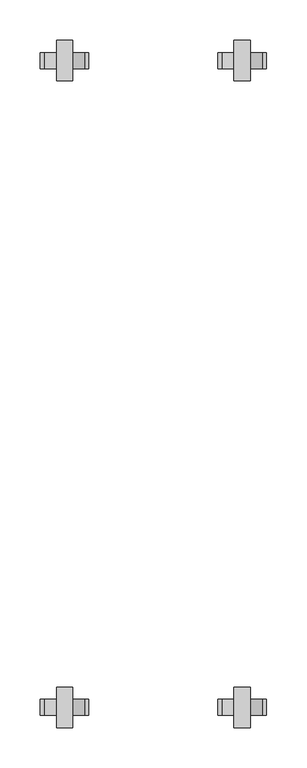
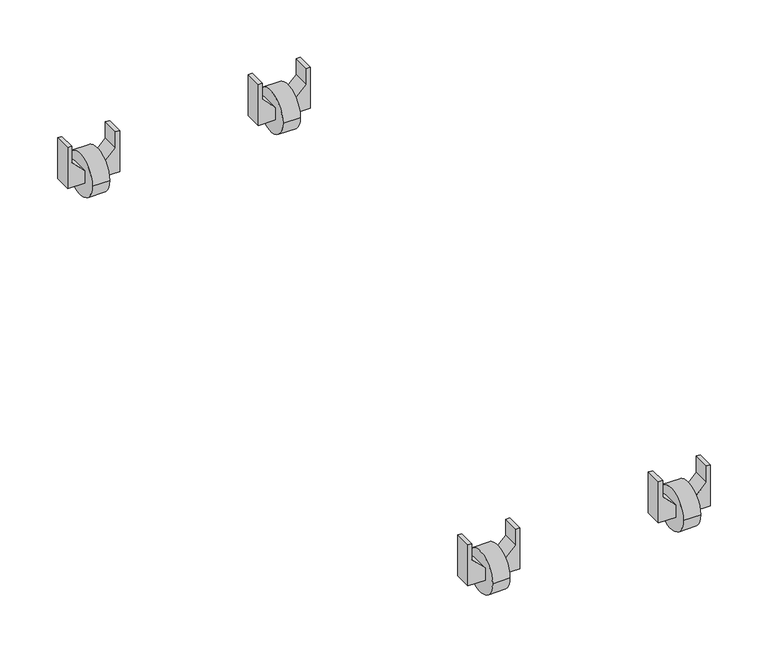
"""IFC4 building model written with IfcOpenShell, lengths in millimetres: proxy geometry, Ролики серия Solo : FONRMMD."""

from ifc_helpers import new_model, si_unit, point, frame, frame_2d, origin, place, context, project, spatial, polyline, circle_curve, trimmed, segment, composite_curve, outline, extrude, source, transform, mapped, element, save


def electrical_equipment_6c59c8ee(model_context):
    return source(origin(), model_context, "Body", "SweptSolid", [
        extrude(outline(polyline([(50.3347717, 135.3347717), (35.0, 120.0), (20.0, 120.0), (20.0, 140.0), (70.0, 140.0), (70.0, 135.3347717), (50.3347717, 135.3347717)])), frame((0.0, -410.0, 0.0), z_axis=(0.0, 1.0, 0.0), x_axis=(0.0, 0.0, 1.0)), (0.0, 0.0, 1.0), 20.0),
        extrude(outline(polyline([(50.3347717, 84.6652283), (70.0, 84.6652283), (70.0, 80.0), (20.0, 80.0), (20.0, 100.0), (35.0, 100.0), (50.3347717, 84.6652283)])), frame((0.0, -410.0, 0.0), z_axis=(0.0, 1.0, 0.0), x_axis=(0.0, 0.0, 1.0)), (0.0, 0.0, 1.0), 20.0),
        extrude(outline(polyline([(50.3347717, -84.6652283), (35.0, -100.0), (20.0, -100.0), (20.0, -80.0), (70.0, -80.0), (70.0, -84.6652283), (50.3347717, -84.6652283)])), frame((0.0, -410.0, 0.0), z_axis=(0.0, 1.0, 0.0), x_axis=(0.0, 0.0, 1.0)), (0.0, 0.0, 1.0), 20.0),
        extrude(outline(polyline([(50.3347717, -135.3347717), (70.0, -135.3347717), (70.0, -140.0), (20.0, -140.0), (20.0, -120.0), (35.0, -120.0), (50.3347717, -135.3347717)])), frame((0.0, -410.0, 0.0), z_axis=(0.0, 1.0, 0.0), x_axis=(0.0, 0.0, 1.0)), (0.0, 0.0, 1.0), 20.0),
        extrude(outline(composite_curve([segment(trimmed(circle_curve(frame_2d((-400.0, 25.0)), 25.0), [point((-425.0, 25.0))], [point((-375.0, 25.0))], False, "CARTESIAN"), True, "CONTINUOUS"), segment(trimmed(circle_curve(frame_2d((-400.0, 25.0)), 25.0), [point((-375.0, 25.0))], [point((-425.0, 25.0))], False, "CARTESIAN"), True, "CONTINUOUS")], self_intersect=False)), frame((-120.0, 0.0, 0.0), z_axis=(1.0, 0.0, 0.0), x_axis=(0.0, 1.0, 0.0)), (0.0, 0.0, 1.0), 20.0),
        extrude(outline(composite_curve([segment(trimmed(circle_curve(frame_2d((-400.0, 25.0)), 25.0), [point((-425.0, 25.0))], [point((-375.0, 25.0))], False, "CARTESIAN"), True, "CONTINUOUS"), segment(trimmed(circle_curve(frame_2d((-400.0, 25.0)), 25.0), [point((-375.0, 25.0))], [point((-425.0, 25.0))], False, "CARTESIAN"), True, "CONTINUOUS")], self_intersect=False)), frame((100.0, 0.0, 0.0), z_axis=(1.0, 0.0, 0.0), x_axis=(0.0, 1.0, 0.0)), (0.0, 0.0, 1.0), 20.0),
        extrude(outline(polyline([(50.3347717, -84.6652283), (35.0, -100.0), (20.0, -100.0), (20.0, -80.0), (70.0, -80.0), (70.0, -84.6652283), (50.3347717, -84.6652283)])), frame((0.0, 390.0, 0.0), z_axis=(0.0, 1.0, 0.0), x_axis=(0.0, 0.0, 1.0)), (0.0, 0.0, 1.0), 20.0),
        extrude(outline(polyline([(50.3347717, -135.3347717), (70.0, -135.3347717), (70.0, -140.0), (20.0, -140.0), (20.0, -120.0), (35.0, -120.0), (50.3347717, -135.3347717)])), frame((0.0, 390.0, 0.0), z_axis=(0.0, 1.0, 0.0), x_axis=(0.0, 0.0, 1.0)), (0.0, 0.0, 1.0), 20.0),
        extrude(outline(composite_curve([segment(trimmed(circle_curve(frame_2d((400.0, 25.0)), 25.0), [point((375.0, 25.0))], [point((425.0, 25.0))], False, "CARTESIAN"), True, "CONTINUOUS"), segment(trimmed(circle_curve(frame_2d((400.0, 25.0)), 25.0), [point((425.0, 25.0))], [point((375.0, 25.0))], False, "CARTESIAN"), True, "CONTINUOUS")], self_intersect=False)), frame((-120.0, 0.0, 0.0), z_axis=(1.0, 0.0, 0.0), x_axis=(0.0, 1.0, 0.0)), (0.0, 0.0, 1.0), 20.0),
        extrude(outline(polyline([(50.3347717, 135.3347717), (35.0, 120.0), (20.0, 120.0), (20.0, 140.0), (70.0, 140.0), (70.0, 135.3347717), (50.3347717, 135.3347717)])), frame((0.0, 390.0, 0.0), z_axis=(0.0, 1.0, 0.0), x_axis=(0.0, 0.0, 1.0)), (0.0, 0.0, 1.0), 20.0),
        extrude(outline(polyline([(50.3347717, 84.6652283), (70.0, 84.6652283), (70.0, 80.0), (20.0, 80.0), (20.0, 100.0), (35.0, 100.0), (50.3347717, 84.6652283)])), frame((0.0, 390.0, 0.0), z_axis=(0.0, 1.0, 0.0), x_axis=(0.0, 0.0, 1.0)), (0.0, 0.0, 1.0), 20.0),
        extrude(outline(composite_curve([segment(trimmed(circle_curve(frame_2d((400.0, 25.0)), 25.0), [point((375.0, 25.0))], [point((425.0, 25.0))], False, "CARTESIAN"), True, "CONTINUOUS"), segment(trimmed(circle_curve(frame_2d((400.0, 25.0)), 25.0), [point((425.0, 25.0))], [point((375.0, 25.0))], False, "CARTESIAN"), True, "CONTINUOUS")], self_intersect=False)), frame((100.0, 0.0, 0.0), z_axis=(1.0, 0.0, 0.0), x_axis=(0.0, 1.0, 0.0)), (0.0, 0.0, 1.0), 20.0),
    ])


if __name__ == "__main__":
    model = new_model("IFC4")
    model_context = context("Model", 3, world=origin())
    ifc_project = project(units=[si_unit("LENGTHUNIT", "METRE", prefix="MILLI")], contexts=[model_context])
    site = spatial("IfcSite", under=ifc_project)
    building = spatial("IfcBuilding", under=site)
    placement = place(None, origin())
    electrical_equipment_shape = electrical_equipment_6c59c8ee(model_context)
    element("IfcBuildingElementProxy", 1, Name="Ролики серия Solo : FONRMMD", ObjectType="Ролики серия Solo : FONRMMD", at=placement, inside=building, context=model_context, shape_type="MappedRepresentation", body=[
        mapped(electrical_equipment_shape, transform((0.0, 0.0, 0.0), x_axis=(1.0, 0.0, 0.0), y_axis=(0.0, 1.0, 0.0), z_axis=(0.0, 0.0, 1.0))),
    ])
    save(model, "model.ifc")
